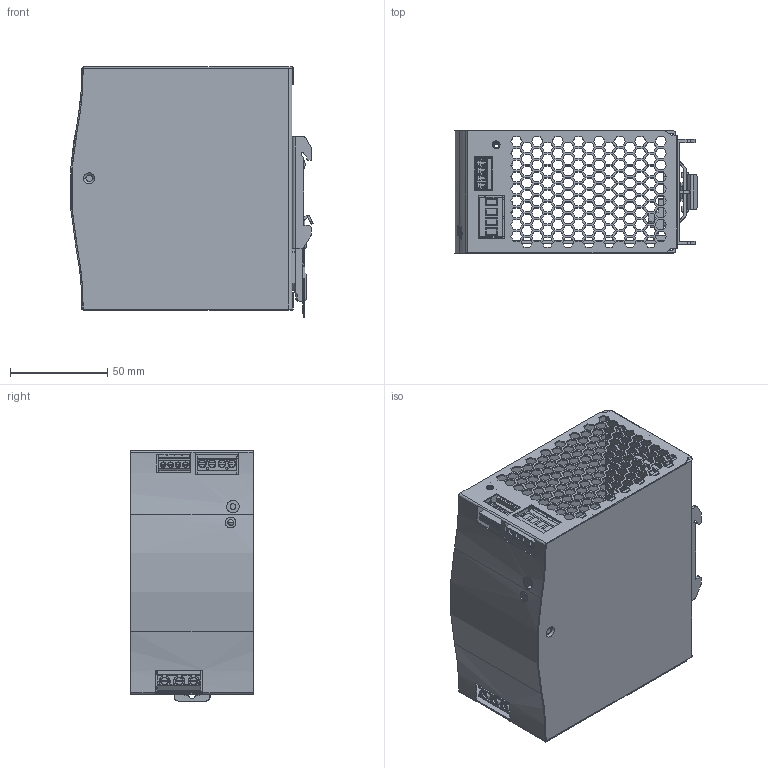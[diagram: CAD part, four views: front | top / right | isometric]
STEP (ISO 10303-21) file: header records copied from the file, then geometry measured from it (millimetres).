
FILE_DESCRIPTION(('Creo Elements/Direct Modeling STEP Export'),'2;1');
FILE_NAME('DRC-180.stp','2022-03-22T19:08:19',(''),(''),'PTC Creo Elements/Direct Modeling STEP processor for AP214 (Solid Model)','PTC Creo Elements/Direct Modeling 19.0E 27-Jun-2016 (C) Parametric Technology GmbH','');
FILE_SCHEMA(('AUTOMOTIVE_DESIGN { 1 0 10303 214 1 1 1 1 }'));
Length unit declared in the file: millimetre
Products named in the file (38): 零件1; VR_1; PCBA; PCBB; PCB; DINKLE_EESK381V-XXP_1_1.PRT; DINKLE_EESK381V-XXP_1_10.PRT; DINKLE_EESK381V-XXP_1_11.PRT; DINKLE_EESK381V-XXP_1_12.PRT; DINKLE_EESK381V-XXP_1_13.PRT; DINKLE_EESK381V-XXP_1.ASM; DINKLE_EESK381V-12P.stp; DG129-5_08-04P-1Y-00AH.prt; DG129-5_08-04P-1Y-00AH.stp; DG129-7_5-03P-1Y-100AH.prt; DG129-7_5-03P-1Y-100AH.stp; P3_1_1_PRT.PRT.1; P3_1_1_PRT.PRT; 1GG1HS-299B; 1GG1HS-300B; 装配1; CASE1; CASE2; P3_1; P1_1; 掛座DRP14_1; HS; LED_1; p2_1; TO220(2).2; TO220(2).2.1; TO220(2).2.1.1; TO220(2); TO220(2).1; 052A; 054A; MOS; DRC-180
Assembly tree (36 placements, depth 4):
  零件1
  DRC-180
    MOS
      054A
      052A
      TO220(2).1
      TO220(2)
      TO220(2).2.1.1
      TO220(2).2.1
      TO220(2).2
    p2_1
    LED_1
    HS
    掛座DRP14_1
      P1_1
      P3_1
    CASE2
    CASE1
    装配1
      1GG1HS-300B
      1GG1HS-299B
      P3_1_1_PRT.PRT
      P3_1_1_PRT.PRT.1
      DG129-7_5-03P-1Y-100AH.stp
        DG129-7_5-03P-1Y-100AH.prt
      DG129-5_08-04P-1Y-00AH.stp
        DG129-5_08-04P-1Y-00AH.prt
      DINKLE_EESK381V-12P.stp
      DINKLE_EESK381V-XXP_1.ASM
        DINKLE_EESK381V-XXP_1_13.PRT
        DINKLE_EESK381V-XXP_1_12.PRT
        DINKLE_EESK381V-XXP_1_11.PRT
        DINKLE_EESK381V-XXP_1_10.PRT
        DINKLE_EESK381V-XXP_1_1.PRT
    PCB
      PCBB
      PCBA
    VR_1
Bounding box: 124.92 x 63 x 128.71 mm (x, y, z)
Volume: 158143.9 mm3; surface area: 210104.5 mm2
Topology: 28 solids, 35 shells, 4558 faces, 12885 edges, 8509 vertices
Faces by surface type: plane 3587, cylinder 617, cone 229, torus 109, sphere 8, revolution 6, extrusion 1, bspline 1
Entity records: 153309 total; most frequent: CARTESIAN_POINT 27868, ORIENTED_EDGE 25754, DIRECTION 22311, EDGE_CURVE 12877, VECTOR 10759, LINE 10758, VERTEX_POINT 8509, AXIS2_PLACEMENT_3D 5773
